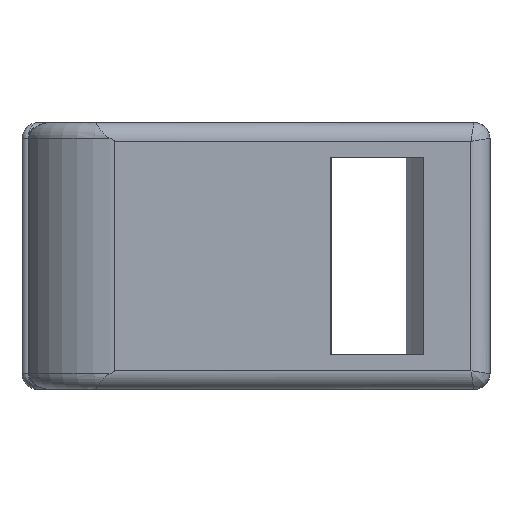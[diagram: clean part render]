
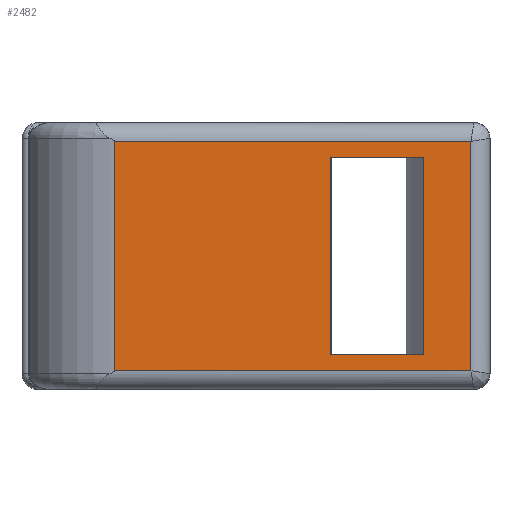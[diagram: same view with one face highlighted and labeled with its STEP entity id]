
A CAD part, left-side view. The second image highlights one B-rep face of the part: STEP entity #2482.
In plain terms, the highlighted planar face has unit normal (-1, 0, 0).
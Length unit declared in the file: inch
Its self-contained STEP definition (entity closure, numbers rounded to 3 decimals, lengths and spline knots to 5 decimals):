
#74 = EDGE_CURVE ( 'NONE', #916, #1115, #2318, .T. ) ;
#164 = DIRECTION ( 'NONE',  ( 0., -1., 0. ) ) ;
#279 = CARTESIAN_POINT ( 'NONE',  ( -0.4056, 3.0349, 0.055 ) ) ;
#288 = ORIENTED_EDGE ( 'NONE', *, *, #3381, .T. ) ;
#297 = EDGE_CURVE ( 'NONE', #613, #3543, #3980, .T. ) ;
#298 = DIRECTION ( 'NONE',  ( 0., 0., -1. ) ) ;
#369 = VECTOR ( 'NONE', #2491, 39.37008 ) ;
#370 = VERTEX_POINT ( 'NONE', #3349 ) ;
#493 = DIRECTION ( 'NONE',  ( 0., 1., 0. ) ) ;
#504 = DIRECTION ( 'NONE',  ( 1., 0., 0. ) ) ;
#528 = CARTESIAN_POINT ( 'NONE',  ( -0.4056, 3.5299, 0.42726 ) ) ;
#577 = LINE ( 'NONE', #2508, #3729 ) ;
#613 = VERTEX_POINT ( 'NONE', #3087 ) ;
#619 = EDGE_LOOP ( 'NONE', ( #288, #1547, #3894, #1073 ) ) ;
#841 = DIRECTION ( 'NONE',  ( 0., 1., 0. ) ) ;
#893 = VERTEX_POINT ( 'NONE', #2377 ) ;
#916 = VERTEX_POINT ( 'NONE', #1111 ) ;
#991 = EDGE_CURVE ( 'NONE', #893, #370, #3144, .T. ) ;
#1055 = ORIENTED_EDGE ( 'NONE', *, *, #991, .F. ) ;
#1073 = ORIENTED_EDGE ( 'NONE', *, *, #74, .T. ) ;
#1111 = CARTESIAN_POINT ( 'NONE',  ( -0.4056, 3.52659, 0.03 ) ) ;
#1115 = VERTEX_POINT ( 'NONE', #1971 ) ;
#1172 = VECTOR ( 'NONE', #164, 39.37008 ) ;
#1280 = ORIENTED_EDGE ( 'NONE', *, *, #3998, .F. ) ;
#1351 = VERTEX_POINT ( 'NONE', #279 ) ;
#1401 = CARTESIAN_POINT ( 'NONE',  ( -0.4056, 3.5299, 0.395 ) ) ;
#1430 = EDGE_CURVE ( 'NONE', #3543, #916, #3753, .T. ) ;
#1462 = FACE_BOUND ( 'NONE', #2466, .T. ) ;
#1469 = CARTESIAN_POINT ( 'NONE',  ( -0.4056, 2.95, 0.03 ) ) ;
#1489 = CARTESIAN_POINT ( 'NONE',  ( -0.4056, 3.0349, 0.37 ) ) ;
#1547 = ORIENTED_EDGE ( 'NONE', *, *, #297, .T. ) ;
#1557 = VECTOR ( 'NONE', #298, 39.37008 ) ;
#1558 = EDGE_CURVE ( 'NONE', #4053, #893, #1718, .T. ) ;
#1562 = VECTOR ( 'NONE', #493, 39.37008 ) ;
#1718 = LINE ( 'NONE', #3337, #1562 ) ;
#1971 = CARTESIAN_POINT ( 'NONE',  ( -0.4056, 2.95901, 0.03 ) ) ;
#2074 = CARTESIAN_POINT ( 'NONE',  ( -0.4056, 3.52659, 0.395 ) ) ;
#2189 = LINE ( 'NONE', #2493, #3785 ) ;
#2217 = DIRECTION ( 'NONE',  ( 0., 0., 1. ) ) ;
#2318 = LINE ( 'NONE', #1469, #1172 ) ;
#2377 = CARTESIAN_POINT ( 'NONE',  ( -0.4056, 3.182, 0.37 ) ) ;
#2452 = PLANE ( 'NONE',  #3777 ) ;
#2466 = EDGE_LOOP ( 'NONE', ( #3139, #2679, #1280, #1055 ) ) ;
#2482 = ADVANCED_FACE ( 'NONE', ( #3426, #1462 ), #2452, .F. ) ;
#2491 = DIRECTION ( 'NONE',  ( 0., 0., -1. ) ) ;
#2493 = CARTESIAN_POINT ( 'NONE',  ( -0.4056, 2.95901, 0.4 ) ) ;
#2508 = CARTESIAN_POINT ( 'NONE',  ( -0.4056, 3.12342, 0.055 ) ) ;
#2528 = LINE ( 'NONE', #3791, #3040 ) ;
#2561 = CARTESIAN_POINT ( 'NONE',  ( -0.4056, 3.182, 0.425 ) ) ;
#2615 = CARTESIAN_POINT ( 'NONE',  ( -0.4056, 3.52659, 0. ) ) ;
#2679 = ORIENTED_EDGE ( 'NONE', *, *, #3033, .F. ) ;
#3033 = EDGE_CURVE ( 'NONE', #1351, #4053, #2528, .T. ) ;
#3040 = VECTOR ( 'NONE', #2217, 39.37008 ) ;
#3087 = CARTESIAN_POINT ( 'NONE',  ( -0.4056, 2.95901, 0.395 ) ) ;
#3139 = ORIENTED_EDGE ( 'NONE', *, *, #1558, .F. ) ;
#3144 = LINE ( 'NONE', #2561, #1557 ) ;
#3337 = CARTESIAN_POINT ( 'NONE',  ( -0.4056, 3.12342, 0.37 ) ) ;
#3349 = CARTESIAN_POINT ( 'NONE',  ( -0.4056, 3.182, 0.055 ) ) ;
#3368 = DIRECTION ( 'NONE',  ( 0., 1., 0. ) ) ;
#3381 = EDGE_CURVE ( 'NONE', #1115, #613, #2189, .T. ) ;
#3426 = FACE_OUTER_BOUND ( 'NONE', #619, .T. ) ;
#3543 = VERTEX_POINT ( 'NONE', #2074 ) ;
#3729 = VECTOR ( 'NONE', #4108, 39.37008 ) ;
#3753 = LINE ( 'NONE', #2615, #369 ) ;
#3777 = AXIS2_PLACEMENT_3D ( 'NONE', #528, #504, #841 ) ;
#3785 = VECTOR ( 'NONE', #3796, 39.37008 ) ;
#3791 = CARTESIAN_POINT ( 'NONE',  ( -0.4056, 3.0349, 0.425 ) ) ;
#3796 = DIRECTION ( 'NONE',  ( 0., 0., 1. ) ) ;
#3839 = VECTOR ( 'NONE', #3368, 39.37008 ) ;
#3894 = ORIENTED_EDGE ( 'NONE', *, *, #1430, .T. ) ;
#3980 = LINE ( 'NONE', #1401, #3839 ) ;
#3998 = EDGE_CURVE ( 'NONE', #370, #1351, #577, .T. ) ;
#4053 = VERTEX_POINT ( 'NONE', #1489 ) ;
#4108 = DIRECTION ( 'NONE',  ( 0., -1., 0. ) ) ;
